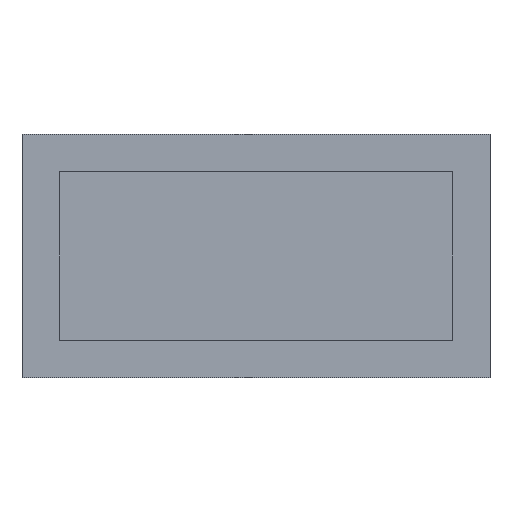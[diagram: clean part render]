
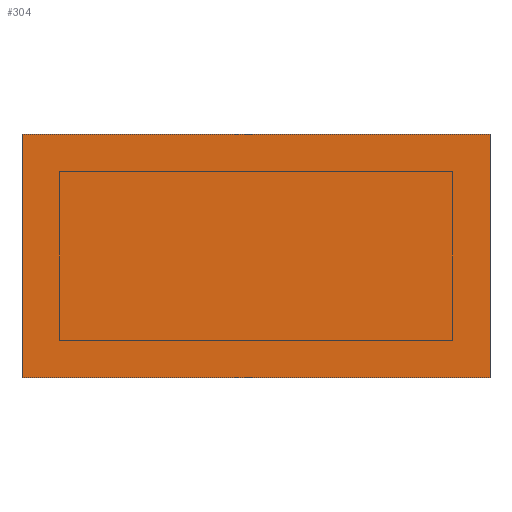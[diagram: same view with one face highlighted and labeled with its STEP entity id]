
A CAD part, front view. The second image highlights one B-rep face of the part: STEP entity #304.
In plain terms, the highlighted planar face has unit normal (0, -1, 0).
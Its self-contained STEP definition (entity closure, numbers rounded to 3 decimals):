
#55=ORIENTED_EDGE('',*,*,#114,.T.);
#56=ORIENTED_EDGE('',*,*,#117,.T.);
#57=ORIENTED_EDGE('',*,*,#120,.T.);
#58=ORIENTED_EDGE('',*,*,#122,.T.);
#114=EDGE_CURVE('',#145,#148,#178,.T.);
#117=EDGE_CURVE('',#148,#150,#181,.T.);
#120=EDGE_CURVE('',#150,#152,#184,.T.);
#122=EDGE_CURVE('',#152,#145,#186,.T.);
#145=VERTEX_POINT('',#452);
#148=VERTEX_POINT('',#457);
#150=VERTEX_POINT('',#463);
#152=VERTEX_POINT('',#469);
#178=LINE('',#458,#214);
#181=LINE('',#464,#217);
#184=LINE('',#470,#220);
#186=LINE('',#473,#222);
#214=VECTOR('',#374,1000.);
#217=VECTOR('',#379,1000.);
#220=VECTOR('',#384,1000.);
#222=VECTOR('',#388,1000.);
#243=EDGE_LOOP('',(#55,#56,#57,#58));
#265=FACE_BOUND('',#243,.T.);
#287=PLANE('',#335);
#304=ADVANCED_FACE('',(#265),#287,.T.);
#335=AXIS2_PLACEMENT_3D('',#474,#389,#390);
#374=DIRECTION('',(0.,0.,1.));
#379=DIRECTION('',(-1.,0.,0.));
#384=DIRECTION('',(0.,0.,-1.));
#388=DIRECTION('',(1.,0.,0.));
#389=DIRECTION('',(0.,-1.,0.));
#390=DIRECTION('',(0.,0.,-1.));
#452=CARTESIAN_POINT('',(6.25,-2501.,-3.25));
#457=CARTESIAN_POINT('',(6.25,-2501.,3.25));
#458=CARTESIAN_POINT('',(6.25,-2501.,-3.25));
#463=CARTESIAN_POINT('',(-6.25,-2501.,3.25));
#464=CARTESIAN_POINT('',(6.25,-2501.,3.25));
#469=CARTESIAN_POINT('',(-6.25,-2501.,-3.25));
#470=CARTESIAN_POINT('',(-6.25,-2501.,3.25));
#473=CARTESIAN_POINT('',(-6.25,-2501.,-3.25));
#474=CARTESIAN_POINT('',(0.,-2501.,0.));
